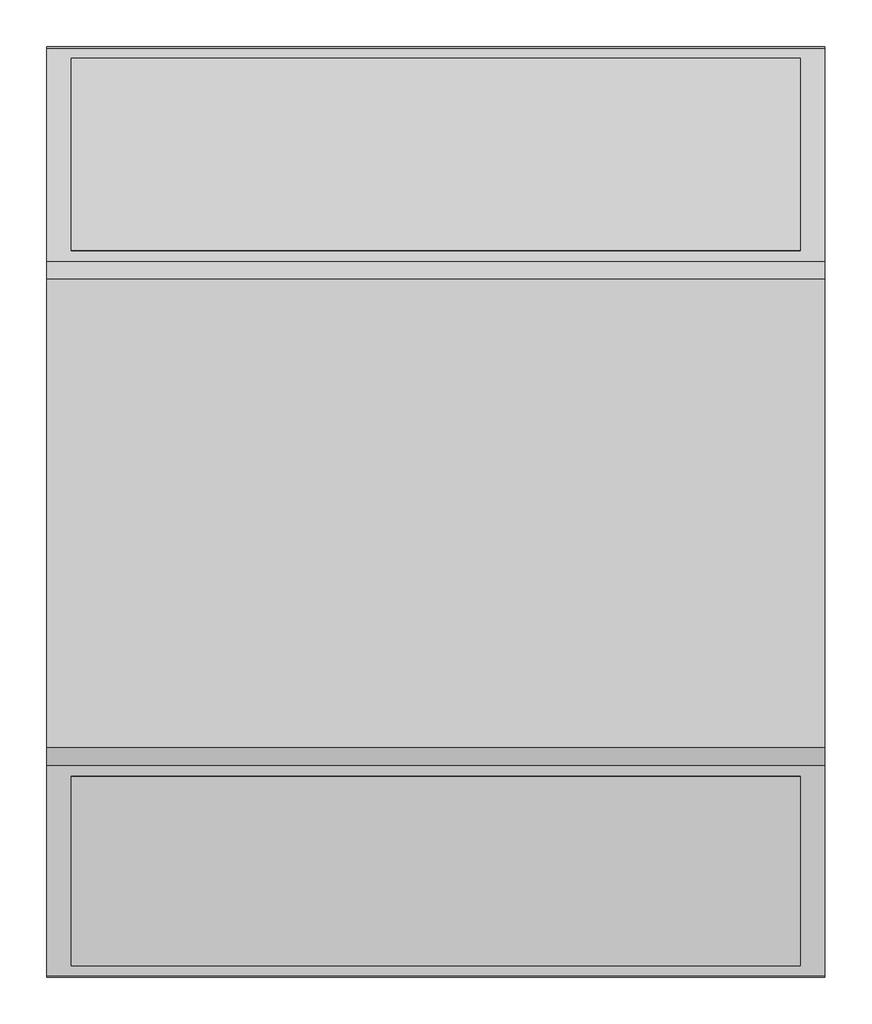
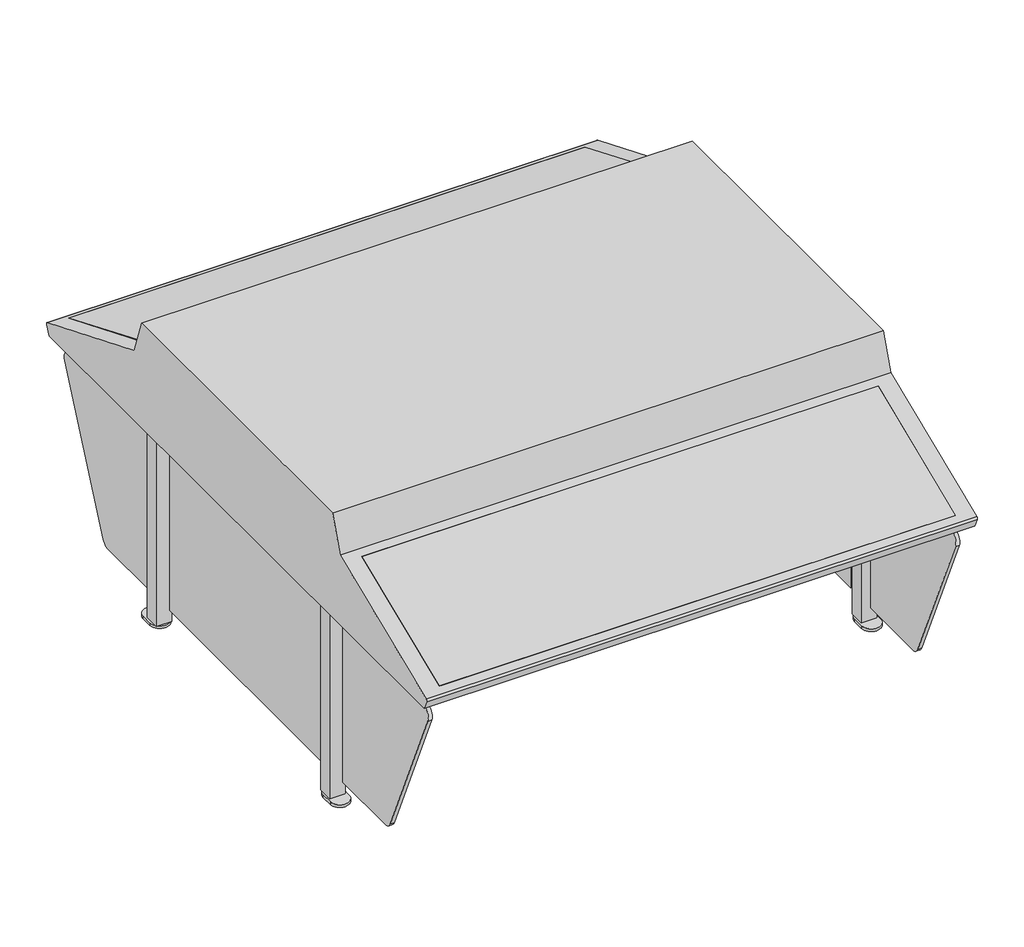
# One storey: 1 proxy.
"""IFC4 building model written with IfcOpenShell, lengths in millimetres."""

from ifc_helpers import new_model, si_unit, origin, place, context, project, spatial, transform, mapped, element, save
from components import specialty_equipment_6575f109

model = new_model("IFC4")

# Units and contexts
model_context = context("Model", 3, world=origin())
ifc_project = project(units=[si_unit("LENGTHUNIT", "METRE", prefix="MILLI")], contexts=[model_context])

# Site, building, storey
site = spatial("IfcSite", under=ifc_project)
building = spatial("IfcBuilding", under=site)
storey = spatial("IfcBuildingStorey", under=building, Name="Level 02 - T.O. Footing", Elevation=-2743.2)

# Proxy
placement = place(None, origin())
specialty_equipment_shape = specialty_equipment_6575f109(model_context)
element("IfcBuildingElementProxy", 1, Name="QF_AtlasMetal_OSDC_cat : QF_AtlasMetal_OSDC_cat", ObjectType="QF_AtlasMetal_OSDC_cat : QF_AtlasMetal_OSDC_cat", at=placement, inside=storey, context=model_context, shape_type="MappedRepresentation", body=[
    mapped(specialty_equipment_shape, transform((7690.5726752, 8603.0495477, -2743.2), x_axis=(1.0, 0.0, 0.0), y_axis=(0.0, 1.0, 0.0), z_axis=(0.0, 0.0, 1.0))),
])

save(model, "model.ifc")
